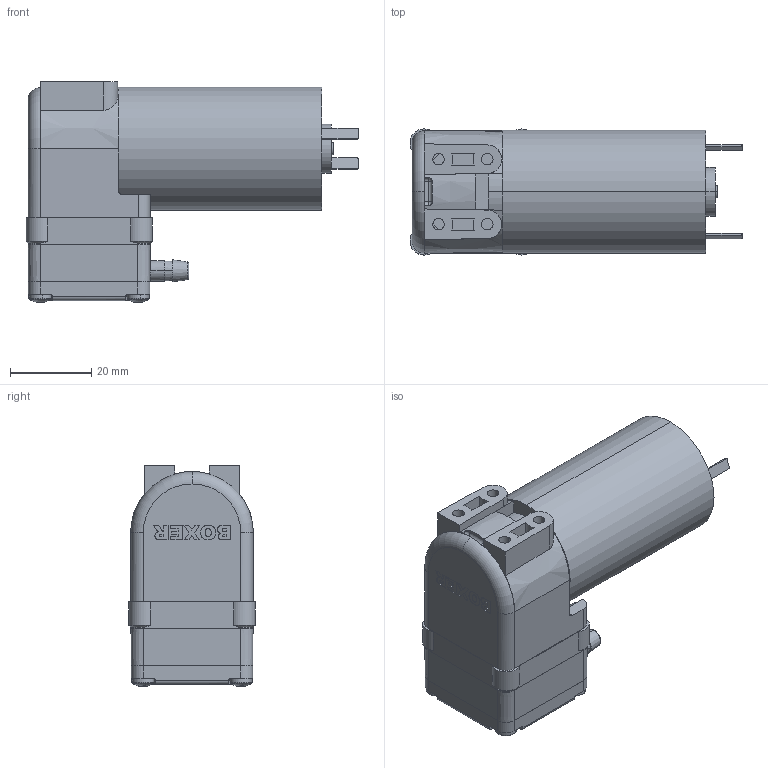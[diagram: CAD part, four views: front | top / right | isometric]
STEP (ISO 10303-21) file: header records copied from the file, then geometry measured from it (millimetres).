
FILE_DESCRIPTION (( 'STEP AP203' ), '1' );
FILE_NAME ('19.STEP', '2014-11-02T18:30:09', ( 'USER' ), ( '' ), 'SwSTEP 2.0', 'SolidWorks 2014', '' );
FILE_SCHEMA (( 'CONFIG_CONTROL_DESIGN' ));
Length unit declared in the file: millimetre
Products named in the file (1): 19
Bounding box: 81.58 x 31 x 54.26 mm (x, y, z)
Surface area: 15323 mm2 (no closed solid volume)
Topology: 0 solids, 9 shells, 362 faces, 1194 edges, 826 vertices
Faces by surface type: plane 169, cylinder 88, cone 47, bspline 30, torus 18, sphere 10
Entity records: 14977 total; most frequent: CARTESIAN_POINT 4811, DIRECTION 2059, ORIENTED_EDGE 2001, EDGE_CURVE 1194, VERTEX_POINT 826, AXIS2_PLACEMENT_3D 732, LINE 595, VECTOR 595
